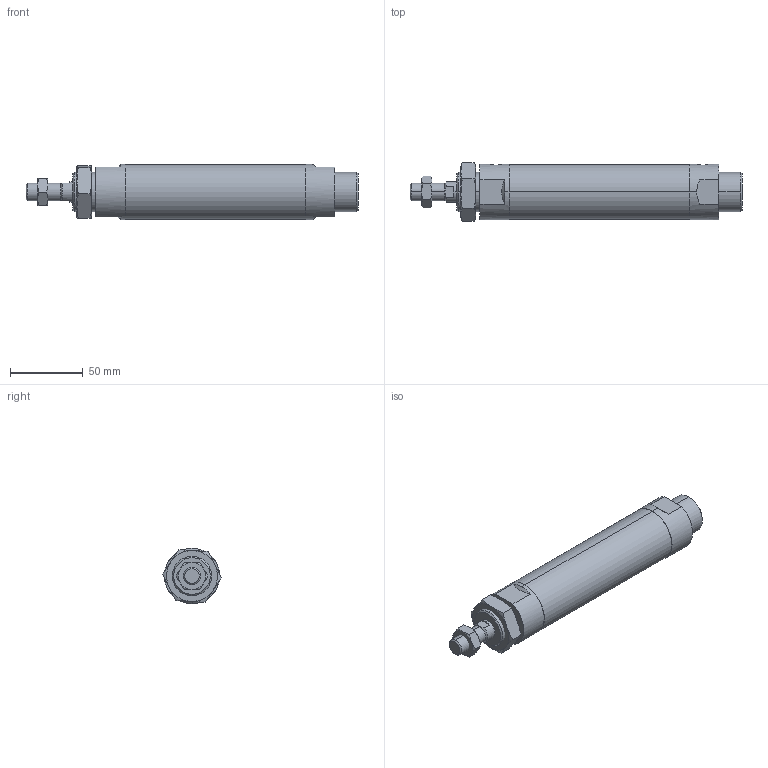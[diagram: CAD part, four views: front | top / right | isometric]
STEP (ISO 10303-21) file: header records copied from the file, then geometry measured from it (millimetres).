
FILE_DESCRIPTION (( 'STEP AP203' ), '1' );
FILE_NAME ('J#2-32-75-N.STEP', '2016-03-08T07:35:27', ( '' ), ( '' ), 'SwSTEP 2.0', 'SolidWorks 2014', '' );
FILE_SCHEMA (( 'CONFIG_CONTROL_DESIGN' ));
Length unit declared in the file: millimetre
Products named in the file (4): J#2-32-75; J#2-32-75-N
Assembly tree (3 placements, depth 2):
  J#2-32-75-N
    J#2-32-75
    (unnamed)
    (unnamed)
Bounding box: 228 x 40.33 x 38 mm (x, y, z)
Volume: 208178.2 mm3; surface area: 30881.5 mm2
Topology: 3 solids, 3 shells, 94 faces, 210 edges, 125 vertices
Faces by surface type: plane 33, torus 24, cylinder 22, cone 15
Entity records: 3451 total; most frequent: CARTESIAN_POINT 1038, DIRECTION 421, ORIENTED_EDGE 412, EDGE_CURVE 206, AXIS2_PLACEMENT_3D 178, VERTEX_POINT 125, EDGE_LOOP 105, FACE_OUTER_BOUND 94
